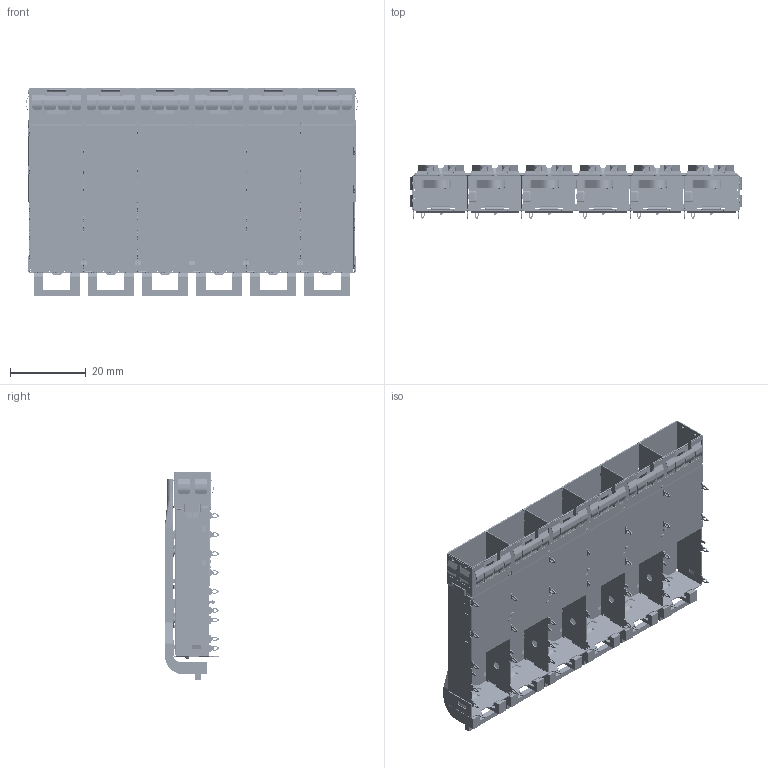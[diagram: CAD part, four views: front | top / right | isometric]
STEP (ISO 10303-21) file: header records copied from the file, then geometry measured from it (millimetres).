
FILE_DESCRIPTION (( 'STEP AP203' ), '1' );
FILE_NAME ('SFP+ 1X6拸堎挴絳嫖翐10.87.STEP', '2024-02-28T05:51:48', ( '' ), ( '' ), 'SwSTEP 2.0', 'SolidWorks 2018', '' );
FILE_SCHEMA (( 'CONFIG_CONTROL_DESIGN' ));
Products named in the file (1): SFP+ 1X6拸堎挴絳嫖翐10.87
Bounding box: 87.56 x 14.37 x 54.82 mm (x, y, z)
Volume: 6862.8 mm3; surface area: 31636.5 mm2
Topology: 1 solids, 1 shells, 6392 faces, 18858 edges, 12270 vertices
Faces by surface type: cylinder 3127, plane 2930, bspline 173, torus 136, sphere 24, cone 2
Entity records: 222735 total; most frequent: CARTESIAN_POINT 47460, ORIENTED_EDGE 37668, DIRECTION 36898, EDGE_CURVE 18834, AXIS2_PLACEMENT_3D 12546, VERTEX_POINT 12270, VECTOR 11806, LINE 11806
